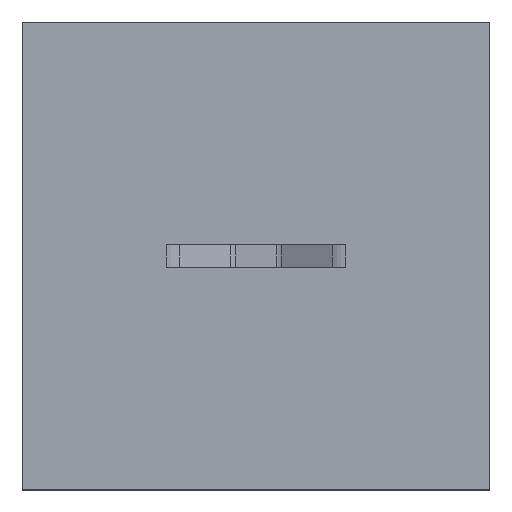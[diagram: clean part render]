
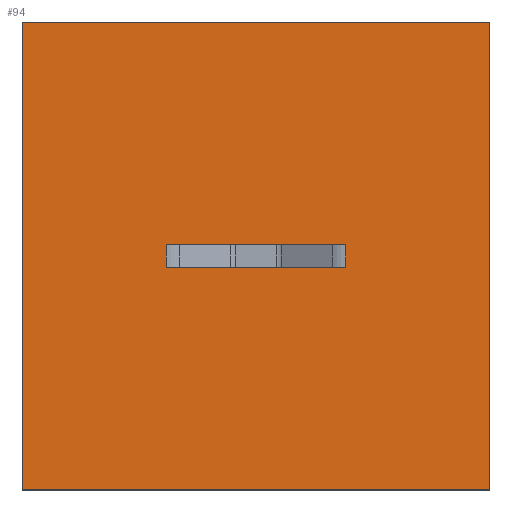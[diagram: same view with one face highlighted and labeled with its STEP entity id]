
A CAD part, top view. The second image highlights one B-rep face of the part: STEP entity #94.
In plain terms, the highlighted planar face has unit normal (0, 0, 1).
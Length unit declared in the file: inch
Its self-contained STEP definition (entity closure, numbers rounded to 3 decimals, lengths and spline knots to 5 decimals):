
#94=ADVANCED_FACE('',(#138,#139),#140,.T.);
#138=FACE_OUTER_BOUND('',#188,.T.);
#139=FACE_BOUND('',#189,.T.);
#140=PLANE('',#190);
#188=EDGE_LOOP('',(#361,#362,#363,#364));
#189=EDGE_LOOP('',(#365,#366,#367,#368));
#190=AXIS2_PLACEMENT_3D('',#369,#370,#371);
#361=ORIENTED_EDGE('',*,*,#468,.F.);
#362=ORIENTED_EDGE('',*,*,#469,.T.);
#363=ORIENTED_EDGE('',*,*,#470,.T.);
#364=ORIENTED_EDGE('',*,*,#415,.F.);
#365=ORIENTED_EDGE('',*,*,#461,.F.);
#366=ORIENTED_EDGE('',*,*,#413,.F.);
#367=ORIENTED_EDGE('',*,*,#443,.T.);
#368=ORIENTED_EDGE('',*,*,#467,.T.);
#369=CARTESIAN_POINT('',(0.0,0.765,-0.049));
#370=DIRECTION('',(0.0,0.0,1.0));
#371=DIRECTION('',(1.0,0.0,0.0));
#413=EDGE_CURVE('',#485,#476,#487,.T.);
#415=EDGE_CURVE('',#488,#491,#492,.T.);
#443=EDGE_CURVE('',#485,#539,#541,.T.);
#461=EDGE_CURVE('',#476,#566,#569,.T.);
#467=EDGE_CURVE('',#539,#566,#575,.T.);
#468=EDGE_CURVE('',#576,#488,#577,.T.);
#469=EDGE_CURVE('',#576,#578,#579,.T.);
#470=EDGE_CURVE('',#578,#491,#580,.T.);
#476=VERTEX_POINT('',#588);
#485=VERTEX_POINT('',#600);
#487=LINE('',#602,#603);
#488=VERTEX_POINT('',#604);
#491=VERTEX_POINT('',#608);
#492=LINE('',#609,#610);
#539=VERTEX_POINT('',#675);
#541=LINE('',#677,#678);
#566=VERTEX_POINT('',#714);
#569=LINE('',#718,#719);
#575=LINE('',#730,#731);
#576=VERTEX_POINT('',#732);
#577=LINE('',#733,#734);
#578=VERTEX_POINT('',#735);
#579=LINE('',#736,#737);
#580=LINE('',#738,#739);
#588=CARTESIAN_POINT('',(0.38408,0.167,-0.049));
#600=CARTESIAN_POINT('',(-0.38408,0.167,-0.049));
#602=CARTESIAN_POINT('',(0.0,0.167,-0.049));
#603=VECTOR('',#761,1.0);
#604=CARTESIAN_POINT('',(1.0,-0.784,-0.049));
#608=CARTESIAN_POINT('',(-1.0,-0.784,-0.049));
#609=CARTESIAN_POINT('',(0.0,-0.784,-0.049));
#610=VECTOR('',#763,1.0);
#675=CARTESIAN_POINT('',(-0.38408,0.265,-0.049));
#677=CARTESIAN_POINT('',(-0.38408,0.167,-0.049));
#678=VECTOR('',#809,1.0);
#714=CARTESIAN_POINT('',(0.38408,0.265,-0.049));
#718=CARTESIAN_POINT('',(0.38408,0.167,-0.049));
#719=VECTOR('',#837,1.0);
#730=CARTESIAN_POINT('',(0.0,0.265,-0.049));
#731=VECTOR('',#843,1.0);
#732=CARTESIAN_POINT('',(1.0,1.216,-0.049));
#733=CARTESIAN_POINT('',(1.0,-0.333,-0.049));
#734=VECTOR('',#844,1.0);
#735=CARTESIAN_POINT('',(-1.0,1.216,-0.049));
#736=CARTESIAN_POINT('',(0.0,1.216,-0.049));
#737=VECTOR('',#845,1.0);
#738=CARTESIAN_POINT('',(-1.0,0.765,-0.049));
#739=VECTOR('',#846,1.0);
#761=DIRECTION('',(1.0,0.0,0.0));
#763=DIRECTION('',(-1.0,0.0,0.0));
#809=DIRECTION('',(0.0,1.0,0.));
#837=DIRECTION('',(0.0,1.0,0.));
#843=DIRECTION('',(1.0,0.0,0.0));
#844=DIRECTION('',(0.0,-1.0,0.0));
#845=DIRECTION('',(-1.0,0.0,0.0));
#846=DIRECTION('',(0.0,-1.0,0.0));
